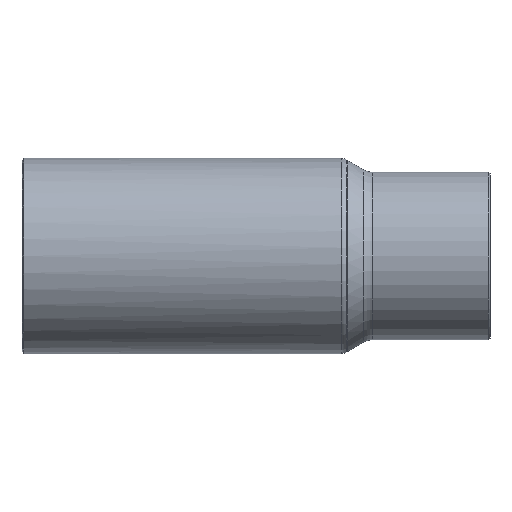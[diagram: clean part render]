
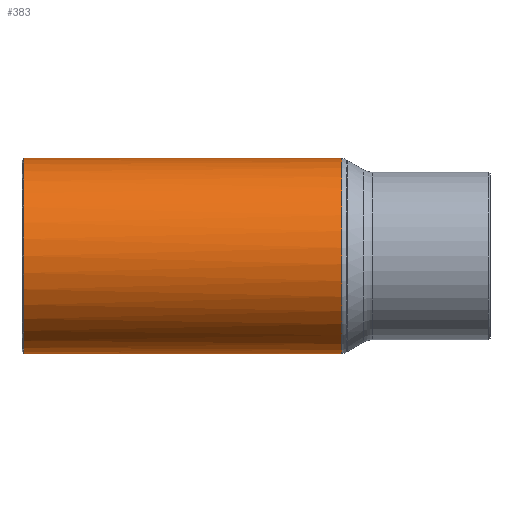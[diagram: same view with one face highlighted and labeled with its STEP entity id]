
A CAD part, front view. The second image highlights one B-rep face of the part: STEP entity #383.
In plain terms, the highlighted cylindrical face has radius 10.9 mm (diameter 21.8 mm), a full revolution.
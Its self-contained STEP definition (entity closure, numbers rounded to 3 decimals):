
#121=CARTESIAN_POINT('',(0.,0.0,-10.9));
#122=VERTEX_POINT('',#121);
#123=CARTESIAN_POINT('',(0.,0.0,10.9));
#124=VERTEX_POINT('',#123);
#309=CARTESIAN_POINT('',(-24.4,10.9,0.));
#310=VERTEX_POINT('',#309);
#311=CARTESIAN_POINT('',(-24.4,0.0,0.0));
#312=DIRECTION('',(-1.0,0.0,0.0));
#313=DIRECTION('',(0.0,-1.0,0.0));
#314=AXIS2_PLACEMENT_3D('',#311,#312,#313);
#315=CIRCLE('',#314,10.9);
#316=EDGE_CURVE('',#310,#310,#315,.T.);
#341=CARTESIAN_POINT('',(1.5,0.0,0.0));
#342=DIRECTION('',(1.0,0.0,0.0));
#343=DIRECTION('',(0.0,1.0,0.0));
#344=AXIS2_PLACEMENT_3D('',#341,#342,#343);
#345=CYLINDRICAL_SURFACE('',#344,10.9);
#346=CARTESIAN_POINT('',(11.04,8.657,6.623));
#347=VERTEX_POINT('',#346);
#348=CARTESIAN_POINT('',(11.04,8.657,-6.623));
#349=VERTEX_POINT('',#348);
#350=CARTESIAN_POINT('',(11.04,0.0,0.0));
#351=DIRECTION('',(1.0,0.0,0.0));
#352=DIRECTION('',(0.0,-1.0,0.0));
#353=AXIS2_PLACEMENT_3D('',#350,#351,#352);
#354=CIRCLE('',#353,10.9);
#355=EDGE_CURVE('',#347,#349,#354,.T.);
#356=ORIENTED_EDGE('',*,*,#355,.F.);
#357=CARTESIAN_POINT('',(0.0,0.0,0.0));
#358=DIRECTION('',(-0.617,0.787,0.0));
#359=DIRECTION('',(0.787,0.617,0.0));
#360=AXIS2_PLACEMENT_3D('',#357,#358,#359);
#361=ELLIPSE('',#360,17.664,10.9);
#362=EDGE_CURVE('',#124,#347,#361,.T.);
#363=ORIENTED_EDGE('',*,*,#362,.F.);
#364=CARTESIAN_POINT('',(0.0,0.0,0.0));
#365=DIRECTION('',(0.617,0.787,0.0));
#366=DIRECTION('',(-0.787,0.617,0.0));
#367=AXIS2_PLACEMENT_3D('',#364,#365,#366);
#368=ELLIPSE('',#367,17.664,10.9);
#369=EDGE_CURVE('',#122,#124,#368,.T.);
#370=ORIENTED_EDGE('',*,*,#369,.F.);
#371=CARTESIAN_POINT('',(0.0,0.0,0.0));
#372=DIRECTION('',(-0.617,0.787,0.0));
#373=DIRECTION('',(0.787,0.617,0.0));
#374=AXIS2_PLACEMENT_3D('',#371,#372,#373);
#375=ELLIPSE('',#374,17.664,10.9);
#376=EDGE_CURVE('',#349,#122,#375,.T.);
#377=ORIENTED_EDGE('',*,*,#376,.F.);
#378=EDGE_LOOP('',(#356,#363,#370,#377));
#379=FACE_OUTER_BOUND('',#378,.T.);
#380=ORIENTED_EDGE('',*,*,#316,.F.);
#381=EDGE_LOOP('',(#380));
#382=FACE_BOUND('',#381,.T.);
#383=ADVANCED_FACE('',(#379,#382),#345,.T.);
